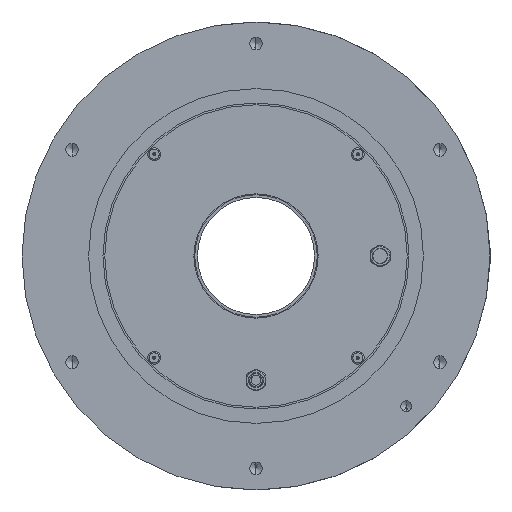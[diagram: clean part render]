
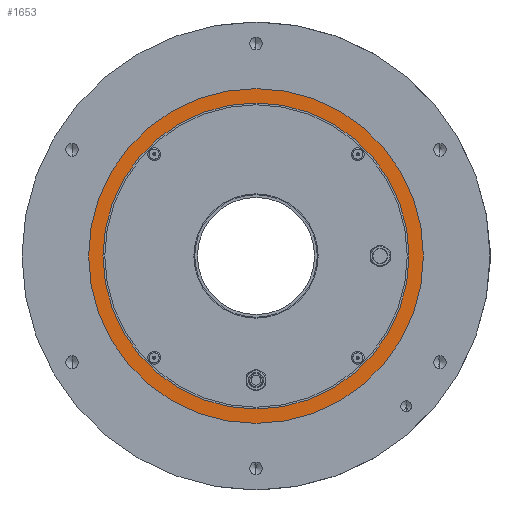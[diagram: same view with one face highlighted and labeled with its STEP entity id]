
A CAD part, front view. The second image highlights one B-rep face of the part: STEP entity #1653.
In plain terms, the highlighted planar face has unit normal (0, -1, 0).
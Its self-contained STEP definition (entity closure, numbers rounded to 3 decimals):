
#243 = PLANE ( 'NONE',  #18641 ) ;
#451 = DIRECTION ( 'NONE',  ( 0., -1., 0. ) ) ;
#1653 = ADVANCED_FACE ( 'NONE', ( #5430, #14759 ), #243, .T. ) ;
#1744 = EDGE_CURVE ( 'NONE', #20814, #20899, #2411, .T. ) ;
#2034 = CARTESIAN_POINT ( 'NONE',  ( 0., 0., 0. ) ) ;
#2283 = CARTESIAN_POINT ( 'NONE',  ( 0., 0., 93. ) ) ;
#2411 = CIRCLE ( 'NONE', #20697, 93. ) ;
#2552 = CIRCLE ( 'NONE', #14396, 93. ) ;
#2621 = EDGE_CURVE ( 'NONE', #10437, #3316, #7248, .T. ) ;
#2952 = CARTESIAN_POINT ( 'NONE',  ( 0., 0., 85. ) ) ;
#3316 = VERTEX_POINT ( 'NONE', #2952 ) ;
#3518 = AXIS2_PLACEMENT_3D ( 'NONE', #14446, #9595, #4903 ) ;
#3839 = ORIENTED_EDGE ( 'NONE', *, *, #1744, .T. ) ;
#3841 = CARTESIAN_POINT ( 'NONE',  ( 85., 0., 0. ) ) ;
#4276 = CARTESIAN_POINT ( 'NONE',  ( 0., 0., 0. ) ) ;
#4384 = CARTESIAN_POINT ( 'NONE',  ( 0., 0., -93. ) ) ;
#4663 = AXIS2_PLACEMENT_3D ( 'NONE', #4276, #12650, #15921 ) ;
#4903 = DIRECTION ( 'NONE',  ( 0., 0., -1. ) ) ;
#5430 = FACE_OUTER_BOUND ( 'NONE', #6585, .T. ) ;
#5799 = ORIENTED_EDGE ( 'NONE', *, *, #15199, .T. ) ;
#5932 = ORIENTED_EDGE ( 'NONE', *, *, #2621, .F. ) ;
#5961 = DIRECTION ( 'NONE',  ( 0., 0., -1. ) ) ;
#6585 = EDGE_LOOP ( 'NONE', ( #5799, #3839 ) ) ;
#6918 = DIRECTION ( 'NONE',  ( 0., 0., -1. ) ) ;
#7248 = CIRCLE ( 'NONE', #3518, 85. ) ;
#9595 = DIRECTION ( 'NONE',  ( 0., -1., 0. ) ) ;
#10437 = VERTEX_POINT ( 'NONE', #17827 ) ;
#11085 = ORIENTED_EDGE ( 'NONE', *, *, #17359, .F. ) ;
#11779 = EDGE_LOOP ( 'NONE', ( #5932, #11085 ) ) ;
#12108 = CARTESIAN_POINT ( 'NONE',  ( 0., 0., 0. ) ) ;
#12650 = DIRECTION ( 'NONE',  ( 0., -1., 0. ) ) ;
#14396 = AXIS2_PLACEMENT_3D ( 'NONE', #2034, #451, #6918 ) ;
#14446 = CARTESIAN_POINT ( 'NONE',  ( 0., 0., 0. ) ) ;
#14759 = FACE_BOUND ( 'NONE', #11779, .T. ) ;
#15178 = CIRCLE ( 'NONE', #4663, 85. ) ;
#15199 = EDGE_CURVE ( 'NONE', #20899, #20814, #2552, .T. ) ;
#15921 = DIRECTION ( 'NONE',  ( 0., 0., -1. ) ) ;
#16777 = DIRECTION ( 'NONE',  ( 0., 0., -1. ) ) ;
#17359 = EDGE_CURVE ( 'NONE', #3316, #10437, #15178, .T. ) ;
#17827 = CARTESIAN_POINT ( 'NONE',  ( 0., 0., -85. ) ) ;
#18568 = DIRECTION ( 'NONE',  ( 0., -1., 0. ) ) ;
#18641 = AXIS2_PLACEMENT_3D ( 'NONE', #3841, #19629, #16777 ) ;
#19629 = DIRECTION ( 'NONE',  ( 0., -1., 0. ) ) ;
#20697 = AXIS2_PLACEMENT_3D ( 'NONE', #12108, #18568, #5961 ) ;
#20814 = VERTEX_POINT ( 'NONE', #2283 ) ;
#20899 = VERTEX_POINT ( 'NONE', #4384 ) ;
